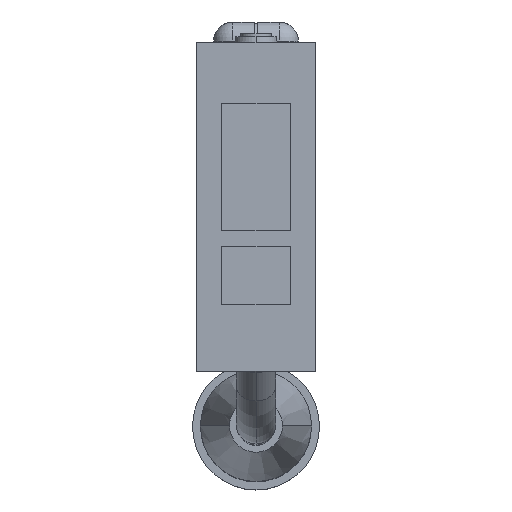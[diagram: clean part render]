
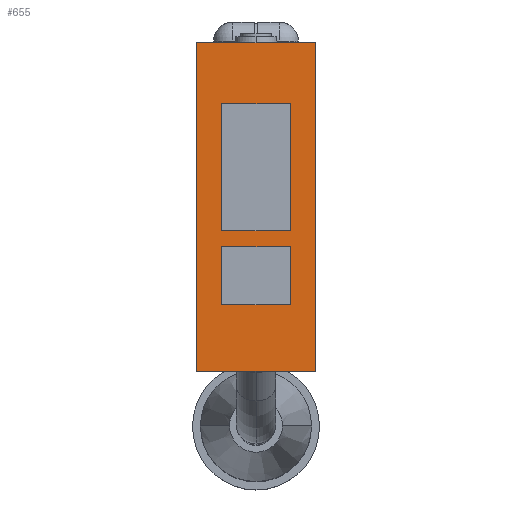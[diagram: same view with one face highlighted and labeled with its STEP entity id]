
A CAD part, top view. The second image highlights one B-rep face of the part: STEP entity #655.
In plain terms, the highlighted planar face has unit normal (0, 0, 1).
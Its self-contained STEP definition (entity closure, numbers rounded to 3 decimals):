
#55 = EDGE_CURVE ( 'NONE', #71, #56, #1210, .T. ) ;
#56 = VERTEX_POINT ( 'NONE', #1206 ) ;
#71 = VERTEX_POINT ( 'NONE', #1241 ) ;
#357 = VERTEX_POINT ( 'NONE', #1759 ) ;
#364 = VERTEX_POINT ( 'NONE', #1749 ) ;
#366 = EDGE_CURVE ( 'NONE', #364, #357, #1748, .T. ) ;
#405 = EDGE_CURVE ( 'NONE', #364, #71, #1807, .T. ) ;
#581 = VERTEX_POINT ( 'NONE', #2113 ) ;
#622 = EDGE_LOOP ( 'NONE', ( #623, #624, #626, #627 ) ) ;
#623 = ORIENTED_EDGE ( 'NONE', *, *, #55, .T. ) ;
#624 = ORIENTED_EDGE ( 'NONE', *, *, #625, .F. ) ;
#625 = EDGE_CURVE ( 'NONE', #357, #56, #2229, .T. ) ;
#626 = ORIENTED_EDGE ( 'NONE', *, *, #366, .F. ) ;
#627 = ORIENTED_EDGE ( 'NONE', *, *, #405, .T. ) ;
#634 = EDGE_CURVE ( 'NONE', #581, #663, #2218, .T. ) ;
#636 = ORIENTED_EDGE ( 'NONE', *, *, #637, .F. ) ;
#637 = EDGE_CURVE ( 'NONE', #660, #581, #2214, .T. ) ;
#638 = EDGE_LOOP ( 'NONE', ( #639, #643, #647, #650 ) ) ;
#639 = ORIENTED_EDGE ( 'NONE', *, *, #640, .F. ) ;
#640 = EDGE_CURVE ( 'NONE', #641, #642, #2210, .T. ) ;
#641 = VERTEX_POINT ( 'NONE', #2272 ) ;
#642 = VERTEX_POINT ( 'NONE', #2271 ) ;
#643 = ORIENTED_EDGE ( 'NONE', *, *, #645, .F. ) ;
#645 = EDGE_CURVE ( 'NONE', #646, #641, #2270, .T. ) ;
#646 = VERTEX_POINT ( 'NONE', #2266 ) ;
#647 = ORIENTED_EDGE ( 'NONE', *, *, #648, .F. ) ;
#648 = EDGE_CURVE ( 'NONE', #649, #646, #2265, .T. ) ;
#649 = VERTEX_POINT ( 'NONE', #2261 ) ;
#650 = ORIENTED_EDGE ( 'NONE', *, *, #703, .F. ) ;
#655 = ADVANCED_FACE ( 'NONE', ( #2255, #2254, #2253 ), #2252, .F. ) ;
#656 = EDGE_LOOP ( 'NONE', ( #657, #661, #664, #636 ) ) ;
#657 = ORIENTED_EDGE ( 'NONE', *, *, #658, .F. ) ;
#658 = EDGE_CURVE ( 'NONE', #659, #660, #2247, .T. ) ;
#659 = VERTEX_POINT ( 'NONE', #2243 ) ;
#660 = VERTEX_POINT ( 'NONE', #2242 ) ;
#661 = ORIENTED_EDGE ( 'NONE', *, *, #662, .F. ) ;
#662 = EDGE_CURVE ( 'NONE', #663, #659, #2309, .T. ) ;
#663 = VERTEX_POINT ( 'NONE', #2305 ) ;
#664 = ORIENTED_EDGE ( 'NONE', *, *, #634, .F. ) ;
#703 = EDGE_CURVE ( 'NONE', #642, #649, #2373, .T. ) ;
#1206 = CARTESIAN_POINT ( 'NONE',  ( 0., 0., 0. ) ) ;
#1207 = DIRECTION ( 'NONE',  ( 0., -1., 0. ) ) ;
#1208 = VECTOR ( 'NONE', #1207, 1000. ) ;
#1209 = CARTESIAN_POINT ( 'NONE',  ( 0., 0., 0. ) ) ;
#1210 = LINE ( 'NONE', #1209, #1208 ) ;
#1241 = CARTESIAN_POINT ( 'NONE',  ( 0., 31., 0. ) ) ;
#1745 = DIRECTION ( 'NONE',  ( 0., -1., 0. ) ) ;
#1746 = VECTOR ( 'NONE', #1745, 1000. ) ;
#1747 = CARTESIAN_POINT ( 'NONE',  ( 11.2, 0., 0. ) ) ;
#1748 = LINE ( 'NONE', #1747, #1746 ) ;
#1749 = CARTESIAN_POINT ( 'NONE',  ( 11.2, 31., 0. ) ) ;
#1759 = CARTESIAN_POINT ( 'NONE',  ( 11.2, 0., 0. ) ) ;
#1804 = DIRECTION ( 'NONE',  ( -1., 0., 0. ) ) ;
#1805 = VECTOR ( 'NONE', #1804, 1000. ) ;
#1806 = CARTESIAN_POINT ( 'NONE',  ( 11.2, 31., 0. ) ) ;
#1807 = LINE ( 'NONE', #1806, #1805 ) ;
#2113 = CARTESIAN_POINT ( 'NONE',  ( 8.85, 25.25, 0. ) ) ;
#2209 = CARTESIAN_POINT ( 'NONE',  ( 2.35, 6.25, 0. ) ) ;
#2210 = LINE ( 'NONE', #2209, #2274 ) ;
#2211 = DIRECTION ( 'NONE',  ( 0., 1., 0. ) ) ;
#2212 = VECTOR ( 'NONE', #2211, 1000. ) ;
#2213 = CARTESIAN_POINT ( 'NONE',  ( 8.85, 25.25, 0. ) ) ;
#2214 = LINE ( 'NONE', #2213, #2212 ) ;
#2215 = DIRECTION ( 'NONE',  ( -1., 0., 0. ) ) ;
#2216 = VECTOR ( 'NONE', #2215, 1000. ) ;
#2217 = CARTESIAN_POINT ( 'NONE',  ( 2.35, 25.25, 0. ) ) ;
#2218 = LINE ( 'NONE', #2217, #2216 ) ;
#2226 = DIRECTION ( 'NONE',  ( -1., 0., 0. ) ) ;
#2227 = VECTOR ( 'NONE', #2226, 1000. ) ;
#2228 = CARTESIAN_POINT ( 'NONE',  ( 11.2, 0., 0. ) ) ;
#2229 = LINE ( 'NONE', #2228, #2227 ) ;
#2242 = CARTESIAN_POINT ( 'NONE',  ( 8.85, 13.25, 0. ) ) ;
#2243 = CARTESIAN_POINT ( 'NONE',  ( 2.35, 13.25, 0. ) ) ;
#2244 = DIRECTION ( 'NONE',  ( 1., 0., 0. ) ) ;
#2245 = VECTOR ( 'NONE', #2244, 1000. ) ;
#2246 = CARTESIAN_POINT ( 'NONE',  ( 2.35, 13.25, 0. ) ) ;
#2247 = LINE ( 'NONE', #2246, #2245 ) ;
#2248 = DIRECTION ( 'NONE',  ( -1., 0., 0. ) ) ;
#2249 = DIRECTION ( 'NONE',  ( 0., 0., -1. ) ) ;
#2250 = CARTESIAN_POINT ( 'NONE',  ( 11.2, 0., 0. ) ) ;
#2251 = AXIS2_PLACEMENT_3D ( 'NONE', #2250, #2249, #2248 ) ;
#2252 = PLANE ( 'NONE',  #2251 ) ;
#2253 = FACE_OUTER_BOUND ( 'NONE', #622, .T. ) ;
#2254 = FACE_BOUND ( 'NONE', #638, .T. ) ;
#2255 = FACE_BOUND ( 'NONE', #656, .T. ) ;
#2261 = CARTESIAN_POINT ( 'NONE',  ( 8.85, 11.75, 0. ) ) ;
#2262 = DIRECTION ( 'NONE',  ( -1., 0., 0. ) ) ;
#2263 = VECTOR ( 'NONE', #2262, 1000. ) ;
#2264 = CARTESIAN_POINT ( 'NONE',  ( 2.35, 11.75, 0. ) ) ;
#2265 = LINE ( 'NONE', #2264, #2263 ) ;
#2266 = CARTESIAN_POINT ( 'NONE',  ( 2.35, 11.75, 0. ) ) ;
#2267 = DIRECTION ( 'NONE',  ( 0., -1., 0. ) ) ;
#2268 = VECTOR ( 'NONE', #2267, 1000. ) ;
#2269 = CARTESIAN_POINT ( 'NONE',  ( 2.35, 11.75, 0. ) ) ;
#2270 = LINE ( 'NONE', #2269, #2268 ) ;
#2271 = CARTESIAN_POINT ( 'NONE',  ( 8.85, 6.25, 0. ) ) ;
#2272 = CARTESIAN_POINT ( 'NONE',  ( 2.35, 6.25, 0. ) ) ;
#2273 = DIRECTION ( 'NONE',  ( 1., 0., 0. ) ) ;
#2274 = VECTOR ( 'NONE', #2273, 1000. ) ;
#2305 = CARTESIAN_POINT ( 'NONE',  ( 2.35, 25.25, 0. ) ) ;
#2306 = DIRECTION ( 'NONE',  ( 0., -1., 0. ) ) ;
#2307 = VECTOR ( 'NONE', #2306, 1000. ) ;
#2308 = CARTESIAN_POINT ( 'NONE',  ( 2.35, 25.25, 0. ) ) ;
#2309 = LINE ( 'NONE', #2308, #2307 ) ;
#2370 = DIRECTION ( 'NONE',  ( 0., 1., 0. ) ) ;
#2371 = VECTOR ( 'NONE', #2370, 1000. ) ;
#2372 = CARTESIAN_POINT ( 'NONE',  ( 8.85, 11.75, 0. ) ) ;
#2373 = LINE ( 'NONE', #2372, #2371 ) ;
